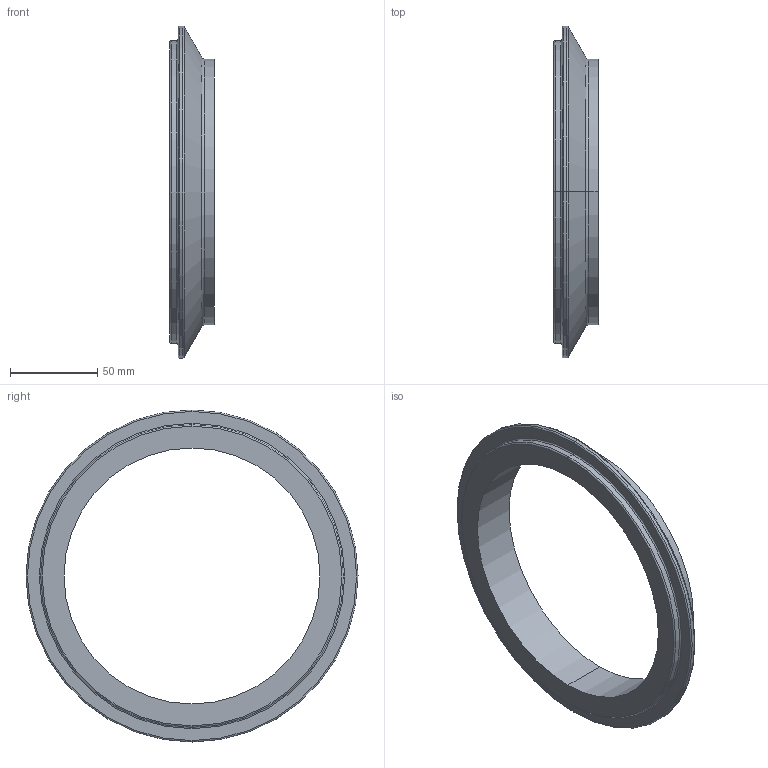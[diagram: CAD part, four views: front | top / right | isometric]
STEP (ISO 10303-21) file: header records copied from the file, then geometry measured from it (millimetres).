
FILE_DESCRIPTION (( 'STEP AP214' ), '1' );
FILE_NAME ('E14WI 6.0 REV2.STEP', '2025-07-18T14:49:15', ( '' ), ( '' ), 'SwSTEP 2.0', 'SolidWorks 2022', '' );
FILE_SCHEMA (( 'AUTOMOTIVE_DESIGN' ));
Length unit declared in the file: inch
Products named in the file (1): E14WI 6.0 REV2
Bounding box: 25.65 x 190.5 x 190.5 mm (x, y, z)
Volume: 146743.9 mm3; surface area: 43546 mm2
Topology: 1 solids, 1 shells, 23 faces, 46 edges, 26 vertices
Faces by surface type: torus 10, cylinder 8, plane 3, cone 2
Entity records: 648 total; most frequent: DIRECTION 130, CARTESIAN_POINT 96, ORIENTED_EDGE 92, AXIS2_PLACEMENT_3D 60, EDGE_CURVE 46, CIRCLE 36, VERTEX_POINT 26, EDGE_LOOP 26
